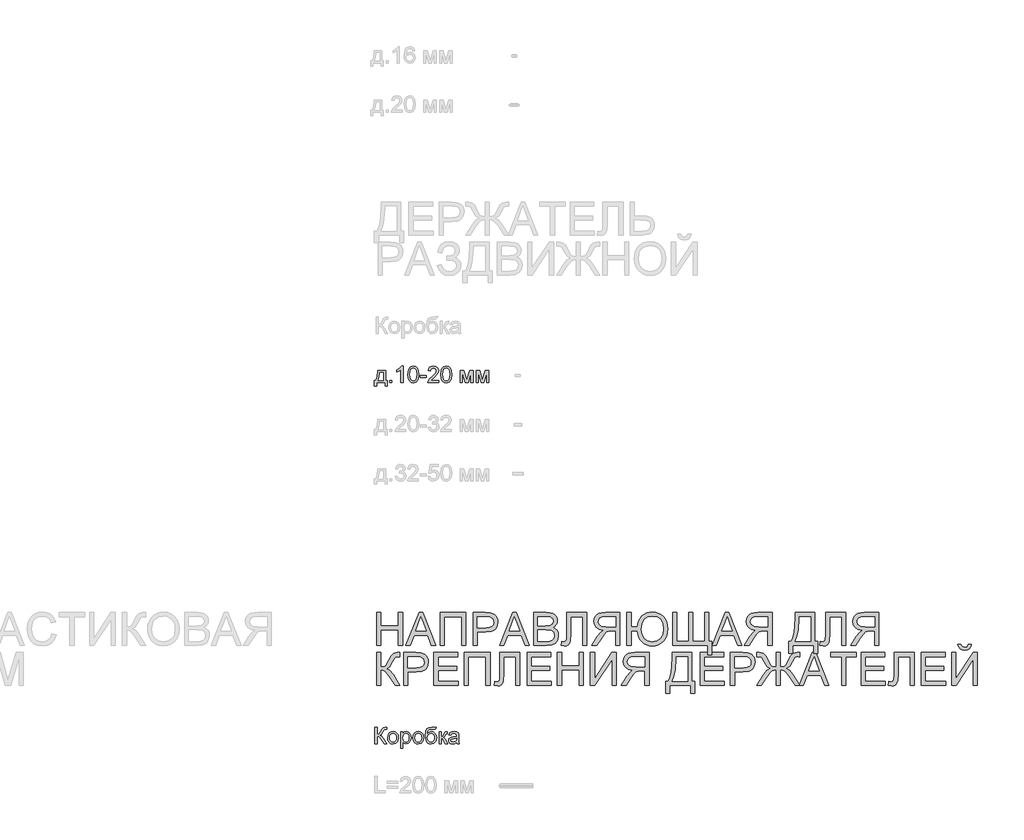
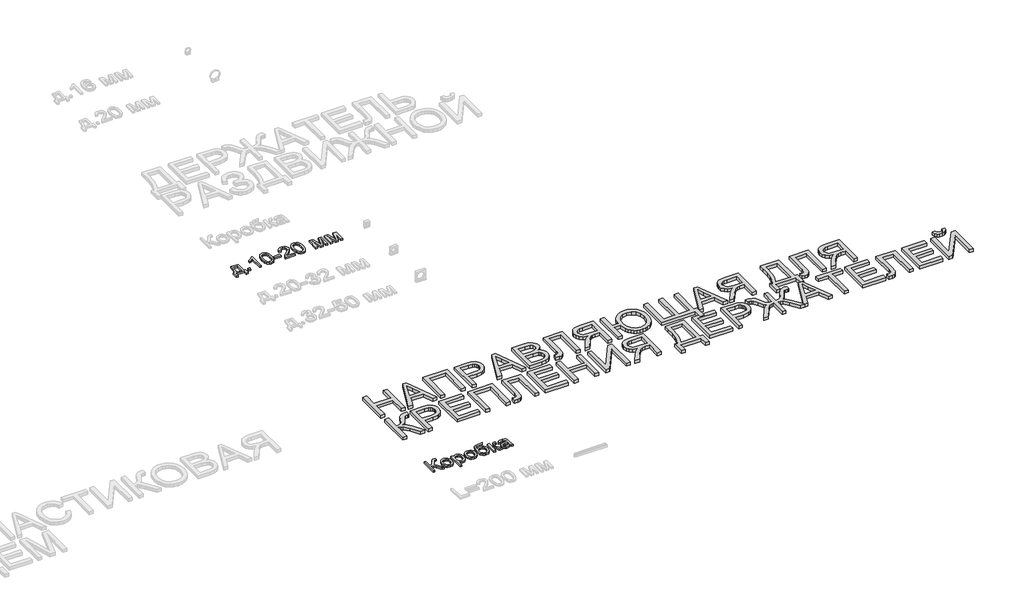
# One storey, part 49 of 98: 3 proxies.
"""IFC4 building model written with IfcOpenShell, lengths in millimetres."""

from ifc_helpers import new_model, si_unit, origin, origin_with_axes, place, context, project, spatial, polyline, outline, extrude, element, save

model = new_model("IFC4")

# Units and contexts
model_context = context("Model", 3, world=origin())
ifc_project = project(units=[si_unit("LENGTHUNIT", "METRE", prefix="MILLI")], contexts=[model_context])

# Site, building, storey
site = spatial("IfcSite", under=ifc_project)
building = spatial("IfcBuilding", under=site)
storey = spatial("IfcBuildingStorey", under=building, Name="Этаж 01", Elevation=0.0)

# Proxies
placement = place(None, origin())
element("IfcBuildingElementProxy", 1, Name="100", ObjectType="100", at=placement, inside=storey, context=model_context, shape_type="SweptSolid", body=[
    extrude(outline(polyline([(16052.0758798, -36515.1062206), (16064.6329186, -36515.1062206), (16064.6329186, -36559.0558563), (16078.673748, -36555.7326556), (16088.4716718, -36538.9204484), (16095.4001161, -36524.879619), (16103.2482653, -36517.9266492), (16114.4686662, -36515.1062206), (16122.7092229, -36515.2533734), (16122.7092229, -36527.8104122), (16119.9378452, -36527.7368358), (16117.1664675, -36527.6632594), (16107.3562809, -36530.6798917), (16099.9005392, -36543.6048125), (16091.0100576, -36559.3501619), (16082.3403053, -36564.5495608), (16092.0339958, -36570.2272062), (16101.5927963, -36582.0607437), (16122.7092229, -36615.5625308), (16108.1410959, -36615.5625308), (16090.2865564, -36587.2601426), (16077.7172549, -36572.4835491), (16064.6329186, -36568.4736354), (16064.6329186, -36615.5625308), (16052.0758798, -36615.5625308), (16052.0758798, -36515.1062206)])), origin_with_axes(), (0.0, 0.0, 1.0), 10.0),
    extrude(outline(polyline([(16128.9877423, -36578.6762294), (16131.7039376, -36560.8891349), (16139.8525238, -36548.3872784), (16149.9202278, -36542.2620432), (16161.9744945, -36540.2202982), (16175.1661297, -36542.7065673), (16185.7028832, -36550.1653748), (16192.6098676, -36562.0081093), (16194.9121958, -36577.6461598), (16190.8409684, -36599.9888596), (16178.9829054, -36612.6317375), (16161.9744945, -36617.1321606), (16148.6234437, -36614.6550885), (16138.098953, -36607.2238722), (16131.2655449, -36595.1328173), (16128.9877423, -36578.6762294)]), holes=[polyline([(16141.544781, -36578.6517039), (16142.9979149, -36590.0161919), (16147.3573165, -36598.1126615), (16153.9178788, -36602.9595067), (16161.9744945, -36604.5751218), (16169.994322, -36602.9503097), (16176.5426215, -36598.0758733), (16180.9020231, -36589.8721048), (16182.355157, -36578.2592965), (16180.8928261, -36567.2259023), (16176.5058333, -36559.2397973), (16169.9483367, -36554.392952), (16161.9744945, -36552.7773369), (16153.9178788, -36554.3868207), (16147.3573165, -36559.2152718), (16142.9979149, -36567.2933473), (16141.544781, -36578.6517039)])]), origin_with_axes(), (0.0, 0.0, 1.0), 10.0),
    extrude(outline(polyline([(16209.0388644, -36643.815868), (16209.0388644, -36541.789928), (16221.5959032, -36541.789928), (16221.5959032, -36554.1017121), (16230.2779183, -36543.6906516), (16242.0010912, -36540.2202982), (16257.9181188, -36545.0763405), (16268.3169166, -36558.7615507), (16271.8240582, -36578.1121437), (16267.8631954, -36598.456018), (16256.3607517, -36612.3129065), (16240.4805123, -36617.1321606), (16229.554417, -36613.9070618), (16221.5959032, -36605.7523442), (16221.5959032, -36643.815868), (16209.0388644, -36643.815868)]), holes=[polyline([(16221.5959032, -36579.2648406), (16222.9540009, -36590.5220296), (16227.028294, -36598.3947043), (16233.0400989, -36603.0300175), (16240.2107321, -36604.5751218), (16247.4978613, -36602.9748352), (16253.6629504, -36598.1739751), (16257.8660022, -36590.0131262), (16259.2670195, -36578.3328729), (16257.8997247, -36567.1369975), (16253.7978405, -36559.1539582), (16247.7952326, -36554.3714922), (16240.7257669, -36552.7773369), (16233.6287101, -36554.4726598), (16227.396176, -36559.5586284), (16223.0459714, -36567.8758271), (16221.5959032, -36579.2648406)])]), origin_with_axes(), (0.0, 0.0, 1.0), 10.0),
    extrude(outline(polyline([(16282.8114672, -36578.6762294), (16285.5276626, -36560.8891349), (16293.6762488, -36548.3872784), (16303.7439527, -36542.2620432), (16315.7982194, -36540.2202982), (16328.9898546, -36542.7065673), (16339.5266081, -36550.1653748), (16346.4335925, -36562.0081093), (16348.7359207, -36577.6461598), (16344.6646933, -36599.9888596), (16332.8066303, -36612.6317375), (16315.7982194, -36617.1321606), (16302.4471687, -36614.6550885), (16291.9226779, -36607.2238722), (16285.0892699, -36595.1328173), (16282.8114672, -36578.6762294)]), holes=[polyline([(16295.3685059, -36578.6517039), (16296.8216398, -36590.0161919), (16301.1810415, -36598.1126615), (16307.7416037, -36602.9595067), (16315.7982194, -36604.5751218), (16323.8180469, -36602.9503097), (16330.3663464, -36598.0758733), (16334.7257481, -36589.8721048), (16336.1788819, -36578.2592965), (16334.716551, -36567.2259023), (16330.3295582, -36559.2397973), (16323.7720616, -36554.392952), (16315.7982194, -36552.7773369), (16307.7416037, -36554.3868207), (16301.1810415, -36559.2152718), (16296.8216398, -36567.2933473), (16295.3685059, -36578.6517039)])]), origin_with_axes(), (0.0, 0.0, 1.0), 10.0),
    extrude(outline(polyline([(16414.6603742, -36513.5365908), (16425.6477832, -36513.5365908), (16422.4104216, -36523.3345146), (16416.0092749, -36526.8784445), (16400.6318075, -36527.6632594), (16379.9200512, -36530.5572644), (16371.9738001, -36539.8278907), (16369.2882615, -36556.2354277), (16380.1653058, -36544.2179492), (16394.1816098, -36540.2202982), (16407.247552, -36542.7617496), (16417.8486849, -36550.386104), (16424.875231, -36562.3453345), (16427.217413, -36577.8914145), (16422.5698371, -36599.4983503), (16411.54564, -36612.5336357), (16394.1816098, -36617.1321606), (16382.8477787, -36615.6514356), (16374.3527703, -36611.2092605), (16363.5002514, -36596.0525223), (16359.7233296, -36563.8873732), (16362.1053655, -36539.7941682), (16369.2514733, -36525.1003482), (16381.3394625, -36517.6047525), (16398.5471428, -36515.1062206), (16412.5266587, -36514.8241778), (16414.6603742, -36513.5365908)]), holes=[polyline([(16414.6603742, -36577.499007), (16413.2992109, -36567.6183097), (16409.2157207, -36559.7057812), (16402.6551585, -36554.509448), (16393.8627788, -36552.7773369), (16384.6963857, -36554.6075499), (16377.8967002, -36560.0981886), (16373.6844513, -36568.6483793), (16372.2803684, -36579.657248), (16373.8316041, -36590.3288916), (16378.4853114, -36598.1617124), (16385.4137556, -36602.9717695), (16393.7892024, -36604.5751218), (16402.2075687, -36602.7203835), (16408.8723642, -36597.1561683), (16413.2133717, -36588.5324012), (16414.6603742, -36577.499007)])]), origin_with_axes(), (0.0, 0.0, 1.0), 10.0),
    extrude(outline(polyline([(16442.9137115, -36541.789928), (16455.4707502, -36541.789928), (16455.4707502, -36573.1825249), (16463.8829852, -36570.926182), (16470.7746412, -36557.7805321), (16476.5013376, -36546.4375039), (16481.5535837, -36542.7464212), (16490.7383708, -36541.789928), (16493.1418665, -36541.789928), (16493.1418665, -36554.4205432), (16489.7573522, -36554.3469668), (16483.6259856, -36555.671342), (16479.3095035, -36563.9364241), (16474.2449947, -36572.8759566), (16467.1448722, -36577.2537523), (16475.0665978, -36582.1404515), (16482.8411707, -36592.435016), (16496.2811262, -36615.5625308), (16482.0073048, -36615.5625308), (16468.8371294, -36592.9255253), (16462.2152535, -36583.3483307), (16455.4707502, -36581.0306742), (16455.4707502, -36615.5625308), (16442.9137115, -36615.5625308), (16442.9137115, -36541.789928)])), origin_with_axes(), (0.0, 0.0, 1.0), 10.0),
    extrude(outline(polyline([(16551.2181708, -36606.1447517), (16539.0412768, -36614.6550885), (16525.5890585, -36617.1321606), (16515.0952246, -36615.6422385), (16507.3543743, -36611.1724723), (16502.5811054, -36604.3850495), (16500.9900158, -36595.9421577), (16503.3935115, -36586.0093438), (16509.7088191, -36578.7988567), (16518.5011987, -36574.6785784), (16529.3659803, -36572.7901175), (16551.1445944, -36568.4736354), (16551.2181708, -36565.6777322), (16547.7600801, -36556.4071059), (16533.8786661, -36552.7773369), (16521.1744746, -36555.1930954), (16515.1166844, -36563.7647458), (16502.5596456, -36562.195116), (16507.9920364, -36549.9323828), (16518.9303944, -36542.7464212), (16535.4973469, -36540.2202982), (16550.7153988, -36542.4521156), (16559.3115747, -36548.0561847), (16563.162073, -36556.5787842), (16563.7752096, -36567.5661931), (16563.7752096, -36583.1889152), (16564.4128717, -36605.0043175), (16566.9144693, -36615.5625308), (16554.3574305, -36615.5625308), (16551.2181708, -36606.1447517)]), holes=[polyline([(16551.2181708, -36581.0306742), (16530.9601356, -36584.8811724), (16520.1566677, -36586.9167861), (16515.2638372, -36590.227724), (16513.5470545, -36595.0592409), (16517.2871882, -36601.8527951), (16528.2623343, -36604.5751218), (16540.9665259, -36601.5707522), (16549.1580317, -36594.2989514), (16551.1445944, -36584.5868668), (16551.2181708, -36581.0306742)])]), origin_with_axes(), (0.0, 0.0, 1.0), 10.0),
])
element("IfcBuildingElementProxy", 2, Name="100", ObjectType="100", at=placement, inside=storey, context=model_context, shape_type="SweptSolid", body=[
    extrude(outline(polyline([(16069.228488, -34337.1797087), (16116.3173833, -34337.1797087), (16116.3173833, -34398.3952727), (16125.7351624, -34398.3952727), (16125.7351624, -34431.3574995), (16113.1781237, -34431.3574995), (16113.1781237, -34410.9523115), (16061.3803387, -34410.9523115), (16061.3803387, -34431.3574995), (16048.8233, -34431.3574995), (16048.8233, -34398.3952727), (16056.6714492, -34398.3952727), (16066.3712711, -34374.4461548), (16069.228488, -34337.1797087)]), holes=[polyline([(16080.2158969, -34349.7367475), (16077.2728409, -34378.345704), (16070.7981178, -34398.3952727), (16103.7603446, -34398.3952727), (16103.7603446, -34349.7367475), (16080.2158969, -34349.7367475)])]), origin_with_axes(), (0.0, 0.0, 1.0), 10.0),
    extrude(outline(polyline([(16143.0010907, -34410.9523115), (16143.0010907, -34398.3952727), (16155.5581295, -34398.3952727), (16155.5581295, -34410.9523115), (16143.0010907, -34410.9523115)])), origin_with_axes(), (0.0, 0.0, 1.0), 10.0),
    extrude(outline(polyline([(16223.0522129, -34410.9523115), (16210.4951741, -34410.9523115), (16210.4951741, -34332.6670229), (16198.6003229, -34341.1405715), (16185.3810966, -34347.4804046), (16185.3810966, -34335.6100789), (16203.7874591, -34323.8623805), (16214.958809, -34310.4960013), (16223.0522129, -34310.4960013), (16223.0522129, -34410.9523115)])), origin_with_axes(), (0.0, 0.0, 1.0), 10.0),
    extrude(outline(polyline([(16252.87518, -34361.5334968), (16256.5662626, -34332.6302347), (16267.5291461, -34315.9651803), (16285.8374067, -34310.4960013), (16300.5036356, -34313.7333629), (16310.6326532, -34323.0653028), (16316.5187651, -34337.9277354), (16318.7996335, -34361.5334968), (16315.145339, -34390.3141316), (16304.2192437, -34407.0159741), (16295.9878841, -34411.1454495), (16285.8374067, -34412.5219413), (16272.7898586, -34410.1307084), (16262.8815702, -34402.9570095), (16255.3767775, -34385.9669926), (16252.87518, -34361.5334968)]), holes=[polyline([(16265.4322187, -34361.5089713), (16266.9037467, -34381.2611688), (16271.3183306, -34392.6931018), (16277.8911556, -34398.1469524), (16285.8374067, -34399.9649026), (16293.7836578, -34398.140821), (16300.3564828, -34392.6685763), (16304.7710667, -34381.230512), (16306.2425947, -34361.5089713), (16304.8201177, -34342.201298), (16300.5526865, -34330.6804601), (16293.9921243, -34324.9598951), (16285.6902539, -34323.0530401), (16277.829842, -34324.7330346), (16271.5145344, -34329.7730179), (16266.9527976, -34342.0112256), (16265.4322187, -34361.5089713)])]), origin_with_axes(), (0.0, 0.0, 1.0), 10.0),
    extrude(outline(polyline([(16326.6477827, -34381.1293444), (16326.6477827, -34368.5723056), (16365.8885289, -34368.5723056), (16365.8885289, -34381.1293444), (16326.6477827, -34381.1293444)])), origin_with_axes(), (0.0, 0.0, 1.0), 10.0),
    extrude(outline(polyline([(16441.2307615, -34398.3952727), (16441.2307615, -34410.9523115), (16375.3063079, -34410.9523115), (16376.6552086, -34402.2948219), (16384.2826286, -34388.9652309), (16400.0034526, -34374.4093666), (16421.6839648, -34353.4891438), (16427.1040929, -34339.2643734), (16421.9905331, -34327.7496669), (16408.6364167, -34323.0530401), (16394.7182146, -34327.6393023), (16389.4329766, -34340.3189684), (16376.8759378, -34338.7493386), (16379.9201613, -34326.6031014), (16386.5021833, -34317.7310139), (16396.2786474, -34312.3047545), (16408.9061968, -34310.4960013), (16421.6257168, -34312.5070896), (16431.3837867, -34318.5403543), (16437.5917954, -34327.5534632), (16439.6611316, -34338.5040839), (16437.4293142, -34350.4111978), (16430.0103606, -34362.7229819), (16412.0209311, -34379.9275966), (16397.5754314, -34392.0063887), (16391.9100487, -34398.3952727), (16441.2307615, -34398.3952727)])), origin_with_axes(), (0.0, 0.0, 1.0), 10.0),
    extrude(outline(polyline([(16453.7878003, -34361.5334968), (16457.4788829, -34332.6302347), (16468.4417664, -34315.9651803), (16486.750027, -34310.4960013), (16501.4162559, -34313.7333629), (16511.5452735, -34323.0653028), (16517.4313854, -34337.9277354), (16519.7122538, -34361.5334968), (16516.0579593, -34390.3141316), (16505.131864, -34407.0159741), (16496.9005044, -34411.1454495), (16486.750027, -34412.5219413), (16473.7024789, -34410.1307084), (16463.7941905, -34402.9570095), (16456.2893978, -34385.9669926), (16453.7878003, -34361.5334968)]), holes=[polyline([(16466.344839, -34361.5089713), (16467.816367, -34381.2611688), (16472.2309509, -34392.6931018), (16478.8037759, -34398.1469524), (16486.750027, -34399.9649026), (16494.6962781, -34398.140821), (16501.2691031, -34392.6685763), (16505.683687, -34381.230512), (16507.155215, -34361.5089713), (16505.732738, -34342.201298), (16501.4653068, -34330.6804601), (16494.9047446, -34324.9598951), (16486.6028742, -34323.0530401), (16478.7424623, -34324.7330346), (16472.4271547, -34329.7730179), (16467.8654179, -34342.0112256), (16466.344839, -34361.5089713)])]), origin_with_axes(), (0.0, 0.0, 1.0), 10.0),
    extrude(outline(polyline([(16573.0796686, -34337.1797087), (16594.6866044, -34337.1797087), (16611.3393961, -34396.2370317), (16629.2920374, -34337.1797087), (16649.991531, -34337.1797087), (16649.991531, -34410.9523115), (16637.4344922, -34410.9523115), (16637.4344922, -34351.551632), (16619.383749, -34410.9523115), (16602.9026356, -34410.9523115), (16585.6367073, -34348.7066779), (16585.6367073, -34410.9523115), (16573.0796686, -34410.9523115), (16573.0796686, -34337.1797087)])), origin_with_axes(), (0.0, 0.0, 1.0), 10.0),
    extrude(outline(polyline([(16668.8270892, -34337.1797087), (16690.434025, -34337.1797087), (16707.0868167, -34396.2370317), (16725.039458, -34337.1797087), (16745.7389516, -34337.1797087), (16745.7389516, -34410.9523115), (16733.1819129, -34410.9523115), (16733.1819129, -34351.551632), (16715.1311696, -34410.9523115), (16698.6500562, -34410.9523115), (16681.3841279, -34348.7066779), (16681.3841279, -34410.9523115), (16668.8270892, -34410.9523115), (16668.8270892, -34337.1797087)])), origin_with_axes(), (0.0, 0.0, 1.0), 10.0),
])
element("IfcBuildingElementProxy", 3, Name="200", ObjectType="200", at=placement, inside=storey, context=model_context, shape_type="SweptSolid", body=[
    extrude(outline(polyline([(16063.0632887, -36015.5625308), (16063.0632887, -35814.6499105), (16088.1773663, -35814.6499105), (16088.1773663, -35896.2706625), (16194.9121958, -35896.2706625), (16194.9121958, -35814.6499105), (16220.0262733, -35814.6499105), (16220.0262733, -36015.5625308), (16194.9121958, -36015.5625308), (16194.9121958, -35921.38474), (16088.1773663, -35921.38474), (16088.1773663, -36015.5625308), (16063.0632887, -36015.5625308)])), origin_with_axes(), (0.0, 0.0, 1.0), 20.0),
    extrude(outline(polyline([(16240.5786141, -36015.5625308), (16320.7768891, -35814.6499105), (16342.1630957, -35814.6499105), (16422.3613707, -36015.5625308), (16395.8248161, -36015.5625308), (16372.8199287, -35952.7773369), (16290.0710052, -35952.7773369), (16267.1151687, -36015.5625308), (16240.5786141, -36015.5625308)]), holes=[polyline([(16299.2925806, -35927.6632594), (16363.6474042, -35927.6632594), (16345.5476101, -35878.2689702), (16331.4699924, -35839.763988), (16318.9620046, -35873.9524881), (16299.2925806, -35927.6632594)])]), origin_with_axes(), (0.0, 0.0, 1.0), 20.0),
    extrude(outline(polyline([(16449.1922309, -35814.6499105), (16606.1552155, -35814.6499105), (16606.1552155, -36015.5625308), (16581.0411379, -36015.5625308), (16581.0411379, -35839.763988), (16474.3063084, -35839.763988), (16474.3063084, -36015.5625308), (16449.1922309, -36015.5625308), (16449.1922309, -35814.6499105)])), origin_with_axes(), (0.0, 0.0, 1.0), 20.0),
    extrude(outline(polyline([(16650.1048512, -36015.5625308), (16650.1048512, -35814.6499105), (16724.564167, -35814.6499105), (16754.5833378, -35816.5628968), (16778.9861768, -35825.9561505), (16787.8582642, -35834.2825463), (16794.8051026, -35845.3803198), (16799.2932629, -35858.4707875), (16800.7893164, -35872.7752657), (16796.7487458, -35896.4546035), (16784.6270341, -35916.1853411), (16774.9195479, -35923.9537826), (16761.9593718, -35929.5026694), (16726.2809496, -35933.9417788), (16675.2189287, -35933.9417788), (16675.2189287, -36015.5625308), (16650.1048512, -36015.5625308)]), holes=[polyline([(16675.2189287, -35908.8277012), (16727.7524776, -35908.8277012), (16750.021601, -35906.5223074), (16764.7368808, -35899.6061259), (16772.9406493, -35888.5083524), (16775.6752388, -35873.6581825), (16774.0626894, -35862.376468), (16769.2250412, -35852.860587), (16761.7631681, -35845.6991509), (16752.2779439, -35841.4807707), (16727.1638664, -35839.763988), (16675.2189287, -35839.763988), (16675.2189287, -35908.8277012)])]), origin_with_axes(), (0.0, 0.0, 1.0), 20.0),
    extrude(outline(polyline([(16811.9238781, -36015.5625308), (16892.122153, -35814.6499105), (16913.5083597, -35814.6499105), (16993.7066346, -36015.5625308), (16967.1700801, -36015.5625308), (16944.1651926, -35952.7773369), (16861.4162692, -35952.7773369), (16838.4604327, -36015.5625308), (16811.9238781, -36015.5625308)]), holes=[polyline([(16870.6378445, -35927.6632594), (16934.9926682, -35927.6632594), (16916.8928741, -35878.2689702), (16902.8152564, -35839.763988), (16890.3072685, -35873.9524881), (16870.6378445, -35927.6632594)])]), origin_with_axes(), (0.0, 0.0, 1.0), 20.0),
    extrude(outline(polyline([(17020.5374948, -36015.5625308), (17020.5374948, -35814.6499105), (17097.2041026, -35814.6499105), (17118.2898723, -35816.1275698), (17134.7525916, -35820.5605479), (17147.370944, -35828.0592092), (17156.9236132, -35838.7339184), (17162.9384838, -35851.2909572), (17164.9434407, -35864.4366071), (17163.2573149, -35876.5337934), (17158.1989374, -35887.9074784), (17149.7315202, -35897.8586864), (17137.8182749, -35905.6884415), (17152.0491767, -35913.1196578), (17162.5644704, -35924.4258978), (17169.0575876, -35938.8591348), (17171.2219601, -35955.671342), (17165.3113227, -35982.6738804), (17150.6696193, -36001.901846), (17128.8174287, -36012.10444), (17096.6154914, -36015.5625308), (17020.5374948, -36015.5625308)]), holes=[polyline([(17045.6515724, -35896.2706625), (17091.5141944, -35896.2706625), (17118.2960037, -35894.1124214), (17134.4092351, -35884.8172697), (17139.8293631, -35868.4587836), (17134.7771171, -35852.0757721), (17120.3070919, -35842.3882129), (17088.0315782, -35839.763988), (17045.6515724, -35839.763988), (17045.6515724, -35896.2706625)]), polyline([(17045.6515724, -35990.4484532), (17097.1550517, -35990.4484532), (17115.7944061, -35989.4674346), (17131.564281, -35983.9982556), (17142.0121296, -35972.8391684), (17146.1078825, -35955.9165966), (17141.3008911, -35936.3943254), (17135.0039776, -35929.3371225), (17125.72722, -35924.7447289), (17094.7025051, -35921.38474), (17045.6515724, -35921.38474), (17045.6515724, -35990.4484532)])]), origin_with_axes(), (0.0, 0.0, 1.0), 20.0),
    extrude(outline(polyline([(17221.4501151, -35814.6499105), (17343.8812431, -35814.6499105), (17343.8812431, -36015.5625308), (17318.7671656, -36015.5625308), (17318.7671656, -35839.763988), (17246.5641927, -35839.763988), (17246.5641927, -35942.2804373), (17243.6456622, -35988.0204321), (17239.126845, -36000.9453528), (17231.4074545, -36010.632912), (17220.8369785, -36016.6845709), (17207.7649049, -36018.7017905), (17186.9182585, -36015.5625308), (17190.0575182, -35990.4484532), (17202.0749967, -35993.5877129), (17210.5669394, -35991.9015871), (17216.6185983, -35986.8432097), (17220.2422359, -35975.5308383), (17221.4501151, -35955.0827308), (17221.4501151, -35814.6499105)])), origin_with_axes(), (0.0, 0.0, 1.0), 20.0),
    extrude(outline(polyline([(17544.7938634, -36015.5625308), (17519.6797859, -36015.5625308), (17519.6797859, -35927.6632594), (17489.3663095, -35927.6632594), (17474.7981825, -35928.5461762), (17462.8542804, -35933.3286421), (17449.5860031, -35946.3516647), (17430.701394, -35973.9182889), (17404.5572469, -36015.5625308), (17375.3719419, -36015.5625308), (17408.8737289, -35961.1159955), (17429.229866, -35935.266154), (17443.5036874, -35924.5239997), (17418.7636232, -35917.8653356), (17401.4425126, -35905.8355943), (17391.2337873, -35889.4280574), (17387.8308788, -35869.636006), (17389.8848866, -35853.7251097), (17396.04691, -35839.2489532), (17405.6486301, -35827.5748312), (17418.0217279, -35820.0700385), (17434.950431, -35816.0049425), (17458.2189672, -35814.6499105), (17544.7938634, -35814.6499105), (17544.7938634, -36015.5625308)]), holes=[polyline([(17519.6797859, -35902.5491818), (17519.6797859, -35839.763988), (17457.1398467, -35839.763988), (17437.2680876, -35841.9344918), (17423.5644833, -35848.4460031), (17415.5998381, -35858.3175033), (17412.9449564, -35870.5679737), (17418.5122372, -35887.6131728), (17425.3671051, -35894.3699388), (17434.7971469, -35898.9929892), (17463.467417, -35902.5491818), (17519.6797859, -35902.5491818)])]), origin_with_axes(), (0.0, 0.0, 1.0), 20.0),
    extrude(outline(polyline([(17588.7434991, -35814.6499105), (17613.8575766, -35814.6499105), (17613.8575766, -35902.5491818), (17651.528693, -35902.5491818), (17654.4242308, -35882.8061814), (17660.1677885, -35865.1723711), (17668.7593659, -35849.6477509), (17680.1989631, -35836.2323209), (17693.8305239, -35825.4165902), (17708.997992, -35817.6910683), (17725.7013674, -35813.0557552), (17743.9406501, -35811.5106508), (17763.1410246, -35813.2366305), (17780.6184851, -35818.4145696), (17796.3730315, -35827.044468), (17810.4046639, -35839.1263259), (17821.9285674, -35854.1635024), (17830.1599271, -35871.659357), (17835.0987429, -35891.6138895), (17836.7450148, -35914.0271001), (17835.09721, -35937.2849064), (17830.1537957, -35957.8602398), (17821.9147719, -35975.7531004), (17810.3801385, -35990.963488), (17796.2795282, -36003.0989953), (17780.3425736, -36011.7672149), (17762.5692747, -36016.9681466), (17742.9596315, -36018.7017905), (17725.0744352, -36017.1904086), (17708.7466059, -36012.656263), (17693.9761438, -36005.0993537), (17680.7630488, -35994.5196806), (17669.610093, -35981.2728631), (17661.0200484, -35965.7145204), (17651.528693, -35927.6632594), (17613.8575766, -35927.6632594), (17613.8575766, -36015.5625308), (17588.7434991, -36015.5625308), (17588.7434991, -35814.6499105)]), holes=[polyline([(17676.6427705, -35916.1853411), (17681.284215, -35948.8532623), (17695.2085485, -35973.2806268), (17716.6744629, -35988.5109414), (17743.9406501, -35993.5877129), (17771.6850839, -35988.4925473), (17793.212312, -35973.2070504), (17807.026281, -35948.3566216), (17811.6309373, -35914.5666604), (17807.0998573, -35882.1685193), (17793.5066176, -35857.4713747), (17772.187856, -35841.8363899), (17744.4802104, -35836.6247283), (17716.3495005, -35841.9038349), (17694.8406665, -35857.7411548), (17681.1922445, -35882.9104147), (17676.6427705, -35916.1853411)])]), origin_with_axes(), (0.0, 0.0, 1.0), 20.0),
    extrude(outline(polyline([(17868.1376117, -35814.6499105), (17893.2516893, -35814.6499105), (17893.2516893, -35990.4484532), (17965.4546622, -35990.4484532), (17965.4546622, -35814.6499105), (17990.5687397, -35814.6499105), (17990.5687397, -35990.4484532), (18062.7717126, -35990.4484532), (18062.7717126, -35814.6499105), (18087.8857902, -35814.6499105), (18087.8857902, -35990.4484532), (18106.7213483, -35990.4484532), (18106.7213483, -36072.0692052), (18081.6072708, -36072.0692052), (18081.6072708, -36015.5625308), (17868.1376117, -36015.5625308), (17868.1376117, -35814.6499105)])), origin_with_axes(), (0.0, 0.0, 1.0), 20.0),
    extrude(outline(polyline([(18108.438131, -36015.5625308), (18188.6364059, -35814.6499105), (18210.0226126, -35814.6499105), (18290.2208875, -36015.5625308), (18263.6843329, -36015.5625308), (18240.6794455, -35952.7773369), (18157.930522, -35952.7773369), (18134.9746856, -36015.5625308), (18108.438131, -36015.5625308)]), holes=[polyline([(18167.1520974, -35927.6632594), (18231.5069211, -35927.6632594), (18213.4071269, -35878.2689702), (18199.3295092, -35839.763988), (18186.8215214, -35873.9524881), (18167.1520974, -35927.6632594)])]), origin_with_axes(), (0.0, 0.0, 1.0), 20.0),
    extrude(outline(polyline([(18474.0147323, -36015.5625308), (18448.9006548, -36015.5625308), (18448.9006548, -35927.6632594), (18418.5871784, -35927.6632594), (18404.0190514, -35928.5461762), (18392.0751492, -35933.3286421), (18378.806872, -35946.3516647), (18359.9222629, -35973.9182889), (18333.7781157, -36015.5625308), (18304.5928108, -36015.5625308), (18338.0945978, -35961.1159955), (18358.4507349, -35935.266154), (18372.7245563, -35924.5239997), (18347.9844921, -35917.8653356), (18330.6633815, -35905.8355943), (18320.4546562, -35889.4280574), (18317.0517477, -35869.636006), (18319.1057555, -35853.7251097), (18325.2677789, -35839.2489532), (18334.869499, -35827.5748312), (18347.2425968, -35820.0700385), (18364.1712999, -35816.0049425), (18387.4398361, -35814.6499105), (18474.0147323, -35814.6499105), (18474.0147323, -36015.5625308)]), holes=[polyline([(18448.9006548, -35902.5491818), (18448.9006548, -35839.763988), (18386.3607156, -35839.763988), (18366.4889565, -35841.9344918), (18352.7853522, -35848.4460031), (18344.820707, -35858.3175033), (18342.1658252, -35870.5679737), (18347.7331061, -35887.6131728), (18354.5879739, -35894.3699388), (18364.0180157, -35898.9929892), (18392.6882859, -35902.5491818), (18448.9006548, -35902.5491818)])]), origin_with_axes(), (0.0, 0.0, 1.0), 20.0),
    extrude(outline(polyline([(18615.2814185, -35814.6499105), (18734.5732868, -35814.6499105), (18734.5732868, -35990.4484532), (18753.4088449, -35990.4484532), (18753.4088449, -36062.6514262), (18728.2947674, -36062.6514262), (18728.2947674, -36015.5625308), (18599.58512, -36015.5625308), (18599.58512, -36062.6514262), (18574.4710425, -36062.6514262), (18574.4710425, -35990.4484532), (18590.1673409, -35990.4484532), (18601.1547498, -35967.6673607), (18609.0028991, -35935.6217732), (18613.7117886, -35894.3116908), (18615.2814185, -35843.7371136), (18615.2814185, -35814.6499105)]), holes=[polyline([(18709.4592092, -35839.763988), (18640.395496, -35839.763988), (18640.395496, -35849.8684801), (18635.294199, -35918.6869387), (18627.7403554, -35958.4549824), (18615.2814185, -35990.4484532), (18709.4592092, -35990.4484532), (18709.4592092, -35839.763988)])]), origin_with_axes(), (0.0, 0.0, 1.0), 20.0),
    extrude(outline(polyline([(18800.4977403, -35814.6499105), (18922.9288683, -35814.6499105), (18922.9288683, -36015.5625308), (18897.8147907, -36015.5625308), (18897.8147907, -35839.763988), (18825.6118178, -35839.763988), (18825.6118178, -35942.2804373), (18822.6932873, -35988.0204321), (18818.1744702, -36000.9453528), (18810.4550796, -36010.632912), (18799.8846036, -36016.6845709), (18786.8125301, -36018.7017905), (18765.9658837, -36015.5625308), (18769.1051434, -35990.4484532), (18781.1226219, -35993.5877129), (18789.6145646, -35991.9015871), (18795.6662234, -35986.8432097), (18799.2898611, -35975.5308383), (18800.4977403, -35955.0827308), (18800.4977403, -35814.6499105)])), origin_with_axes(), (0.0, 0.0, 1.0), 20.0),
    extrude(outline(polyline([(19123.8414886, -36015.5625308), (19098.727411, -36015.5625308), (19098.727411, -35927.6632594), (19068.4139346, -35927.6632594), (19053.8458076, -35928.5461762), (19041.9019055, -35933.3286421), (19028.6336282, -35946.3516647), (19009.7490191, -35973.9182889), (18983.604872, -36015.5625308), (18954.4195671, -36015.5625308), (18987.9213541, -35961.1159955), (19008.2774912, -35935.266154), (19022.5513126, -35924.5239997), (18997.8112484, -35917.8653356), (18980.4901378, -35905.8355943), (18970.2814124, -35889.4280574), (18966.878504, -35869.636006), (18968.9325118, -35853.7251097), (18975.0945352, -35839.2489532), (18984.6962553, -35827.5748312), (18997.069353, -35820.0700385), (19013.9980562, -35816.0049425), (19037.2665924, -35814.6499105), (19123.8414886, -35814.6499105), (19123.8414886, -36015.5625308)]), holes=[polyline([(19098.727411, -35902.5491818), (19098.727411, -35839.763988), (19036.1874719, -35839.763988), (19016.3157128, -35841.9344918), (19002.6121084, -35848.4460031), (18994.6474632, -35858.3175033), (18991.9925815, -35870.5679737), (18997.5598624, -35887.6131728), (19004.4147302, -35894.3699388), (19013.844772, -35898.9929892), (19042.5150422, -35902.5491818), (19098.727411, -35902.5491818)])]), origin_with_axes(), (0.0, 0.0, 1.0), 20.0),
    extrude(outline(polyline([(16063.0632887, -36058.5995462), (16088.1773663, -36058.5995462), (16088.1773663, -36146.4988175), (16105.1796458, -36144.8372172), (16116.2590252, -36139.8524162), (16125.2169518, -36128.1231119), (16135.8548728, -36106.2280018), (16149.7117613, -36078.1463428), (16165.4080598, -36064.2404034), (16187.8488615, -36058.5995462), (16204.3299749, -36058.8938518), (16204.3299749, -36084.0079293), (16198.7872195, -36083.8607765), (16193.2444641, -36083.7136237), (16181.7420204, -36085.2219399), (16173.624091, -36089.7468884), (16158.7126075, -36115.5967299), (16140.9316444, -36147.0874287), (16123.5921397, -36157.4862265), (16142.9795208, -36168.8415174), (16162.0971218, -36192.5085924), (16204.3299749, -36259.5121665), (16175.1937208, -36259.5121665), (16139.4846418, -36202.9073901), (16114.3460388, -36173.3542032), (16102.7393619, -36167.3393326), (16088.1773663, -36165.3343757), (16088.1773663, -36259.5121665), (16063.0632887, -36259.5121665), (16063.0632887, -36058.5995462)])), origin_with_axes(), (0.0, 0.0, 1.0), 20.0),
    extrude(outline(polyline([(16226.3047927, -36259.5121665), (16226.3047927, -36058.5995462), (16300.7641085, -36058.5995462), (16330.7832793, -36060.5125325), (16355.1861184, -36069.9057861), (16364.0582058, -36078.232182), (16371.0050441, -36089.3299555), (16375.4932045, -36102.4204232), (16376.9892579, -36116.7249014), (16372.9486874, -36140.4042392), (16360.8269756, -36160.1349768), (16351.1194895, -36167.9034183), (16338.1593133, -36173.4523051), (16302.4808912, -36177.8914145), (16251.4188702, -36177.8914145), (16251.4188702, -36259.5121665), (16226.3047927, -36259.5121665)]), holes=[polyline([(16251.4188702, -36152.7773369), (16303.9524192, -36152.7773369), (16326.2215426, -36150.4719431), (16340.9368224, -36143.5557616), (16349.1405909, -36132.4579881), (16351.8751804, -36117.6078182), (16350.262631, -36106.3261037), (16345.4249827, -36096.8102227), (16337.9631096, -36089.6487866), (16328.4778855, -36085.4304063), (16303.363808, -36083.7136237), (16251.4188702, -36083.7136237), (16251.4188702, -36152.7773369)])]), origin_with_axes(), (0.0, 0.0, 1.0), 20.0),
    extrude(outline(polyline([(16411.5211145, -36259.5121665), (16411.5211145, -36058.5995462), (16555.9270604, -36058.5995462), (16555.9270604, -36083.7136237), (16436.6351921, -36083.7136237), (16436.6351921, -36143.3595578), (16549.648541, -36143.3595578), (16549.648541, -36168.4736354), (16436.6351921, -36168.4736354), (16436.6351921, -36234.3980889), (16559.0663201, -36234.3980889), (16559.0663201, -36259.5121665), (16411.5211145, -36259.5121665)])), origin_with_axes(), (0.0, 0.0, 1.0), 20.0),
    extrude(outline(polyline([(16596.7374364, -36058.5995462), (16753.700421, -36058.5995462), (16753.700421, -36259.5121665), (16728.5863435, -36259.5121665), (16728.5863435, -36083.7136237), (16621.8515139, -36083.7136237), (16621.8515139, -36259.5121665), (16596.7374364, -36259.5121665), (16596.7374364, -36058.5995462)])), origin_with_axes(), (0.0, 0.0, 1.0), 20.0),
    extrude(outline(polyline([(16813.3463551, -36058.5995462), (16935.7774831, -36058.5995462), (16935.7774831, -36259.5121665), (16910.6634056, -36259.5121665), (16910.6634056, -36083.7136237), (16838.4604327, -36083.7136237), (16838.4604327, -36186.230073), (16835.5419022, -36231.9700678), (16831.023085, -36244.8949885), (16823.3036945, -36254.5825477), (16812.7332185, -36260.6342065), (16799.6611449, -36262.6514262), (16778.8144985, -36259.5121665), (16781.9537582, -36234.3980889), (16793.9712367, -36237.5373486), (16802.4631795, -36235.8512228), (16808.5148383, -36230.7928454), (16812.1384759, -36219.480474), (16813.3463551, -36199.0323665), (16813.3463551, -36058.5995462)])), origin_with_axes(), (0.0, 0.0, 1.0), 20.0),
    extrude(outline(polyline([(16979.7271188, -36259.5121665), (16979.7271188, -36058.5995462), (17124.1330647, -36058.5995462), (17124.1330647, -36083.7136237), (17004.8411964, -36083.7136237), (17004.8411964, -36143.3595578), (17117.8545453, -36143.3595578), (17117.8545453, -36168.4736354), (17004.8411964, -36168.4736354), (17004.8411964, -36234.3980889), (17127.2723244, -36234.3980889), (17127.2723244, -36259.5121665), (16979.7271188, -36259.5121665)])), origin_with_axes(), (0.0, 0.0, 1.0), 20.0),
    extrude(outline(polyline([(17164.9434407, -36259.5121665), (17164.9434407, -36058.5995462), (17190.0575182, -36058.5995462), (17190.0575182, -36140.2202982), (17296.7923477, -36140.2202982), (17296.7923477, -36058.5995462), (17321.9064253, -36058.5995462), (17321.9064253, -36259.5121665), (17296.7923477, -36259.5121665), (17296.7923477, -36165.3343757), (17190.0575182, -36165.3343757), (17190.0575182, -36259.5121665), (17164.9434407, -36259.5121665)])), origin_with_axes(), (0.0, 0.0, 1.0), 20.0),
    extrude(outline(polyline([(17365.856061, -36058.5995462), (17390.9701385, -36058.5995462), (17390.9701385, -36217.7207718), (17496.1353382, -36058.5995462), (17522.8190456, -36058.5995462), (17522.8190456, -36259.5121665), (17497.704968, -36259.5121665), (17497.704968, -36100.8323992), (17392.785023, -36259.5121665), (17365.856061, -36259.5121665), (17365.856061, -36058.5995462)])), origin_with_axes(), (0.0, 0.0, 1.0), 20.0),
    extrude(outline(polyline([(17723.7316659, -36259.5121665), (17698.6175883, -36259.5121665), (17698.6175883, -36171.6128951), (17668.3041119, -36171.6128951), (17653.7359849, -36172.4958119), (17641.7920828, -36177.2782778), (17628.5238055, -36190.3013004), (17609.6391964, -36217.8679246), (17583.4950493, -36259.5121665), (17554.3097444, -36259.5121665), (17587.8115314, -36205.0656312), (17608.1676685, -36179.2157896), (17622.4414899, -36168.4736354), (17597.7014257, -36161.8149713), (17580.3803151, -36149.78523), (17570.1715897, -36133.377693), (17566.7686813, -36113.5856417), (17568.8226891, -36097.6747454), (17574.9847125, -36083.1985889), (17584.5864326, -36071.5244669), (17596.9595303, -36064.0196742), (17613.8882335, -36059.9545782), (17637.1567697, -36058.5995462), (17723.7316659, -36058.5995462), (17723.7316659, -36259.5121665)]), holes=[polyline([(17698.6175883, -36146.4988175), (17698.6175883, -36083.7136237), (17636.0776492, -36083.7136237), (17616.2058901, -36085.8841275), (17602.5022857, -36092.3956388), (17594.5376405, -36102.267139), (17591.8827588, -36114.5176094), (17597.4500397, -36131.5628085), (17604.3049075, -36138.3195745), (17613.7349493, -36142.9426249), (17642.4052195, -36146.4988175), (17698.6175883, -36146.4988175)])]), origin_with_axes(), (0.0, 0.0, 1.0), 20.0),
    extrude(outline(polyline([(17864.998352, -36058.5995462), (17984.2902203, -36058.5995462), (17984.2902203, -36234.3980889), (18003.1257785, -36234.3980889), (18003.1257785, -36306.6010618), (17978.0117009, -36306.6010618), (17978.0117009, -36259.5121665), (17849.3020536, -36259.5121665), (17849.3020536, -36306.6010618), (17824.187976, -36306.6010618), (17824.187976, -36234.3980889), (17839.8842745, -36234.3980889), (17850.8716834, -36211.6169964), (17858.7198326, -36179.5714089), (17863.4287222, -36138.2613265), (17864.998352, -36087.6867492), (17864.998352, -36058.5995462)]), holes=[polyline([(17959.1761428, -36083.7136237), (17890.1124296, -36083.7136237), (17890.1124296, -36093.8181158), (17885.0111326, -36162.6365744), (17877.4572889, -36202.4046181), (17864.998352, -36234.3980889), (17959.1761428, -36234.3980889), (17959.1761428, -36083.7136237)])]), origin_with_axes(), (0.0, 0.0, 1.0), 20.0),
    extrude(outline(polyline([(18034.5183754, -36259.5121665), (18034.5183754, -36058.5995462), (18178.9243212, -36058.5995462), (18178.9243212, -36083.7136237), (18059.6324529, -36083.7136237), (18059.6324529, -36143.3595578), (18172.6458019, -36143.3595578), (18172.6458019, -36168.4736354), (18059.6324529, -36168.4736354), (18059.6324529, -36234.3980889), (18182.0635809, -36234.3980889), (18182.0635809, -36259.5121665), (18034.5183754, -36259.5121665)])), origin_with_axes(), (0.0, 0.0, 1.0), 20.0),
    extrude(outline(polyline([(18219.7346972, -36259.5121665), (18219.7346972, -36058.5995462), (18294.1940131, -36058.5995462), (18324.2131839, -36060.5125325), (18348.6160229, -36069.9057861), (18357.4881103, -36078.232182), (18364.4349487, -36089.3299555), (18368.923109, -36102.4204232), (18370.4191625, -36116.7249014), (18366.3785919, -36140.4042392), (18354.2568801, -36160.1349768), (18344.549394, -36167.9034183), (18331.5892179, -36173.4523051), (18295.9107957, -36177.8914145), (18244.8487748, -36177.8914145), (18244.8487748, -36259.5121665), (18219.7346972, -36259.5121665)]), holes=[polyline([(18244.8487748, -36152.7773369), (18297.3823237, -36152.7773369), (18319.6514471, -36150.4719431), (18334.3667269, -36143.5557616), (18342.5704954, -36132.4579881), (18345.3050849, -36117.6078182), (18343.6925355, -36106.3261037), (18338.8548873, -36096.8102227), (18331.3930141, -36089.6487866), (18321.90779, -36085.4304063), (18296.7937125, -36083.7136237), (18244.8487748, -36083.7136237), (18244.8487748, -36152.7773369)])]), origin_with_axes(), (0.0, 0.0, 1.0), 20.0),
    extrude(outline(polyline([(18524.2428874, -36058.5995462), (18524.2428874, -36146.4988175), (18542.6124617, -36144.8065604), (18554.1639563, -36139.7297888), (18563.2015907, -36127.9820904), (18574.0295841, -36106.2770527), (18588.2543545, -36078.1953938), (18604.1713822, -36064.2404034), (18626.8083876, -36058.5995462), (18643.5347557, -36058.8938518), (18643.5347557, -36083.7136237), (18638.0410512, -36083.5664709), (18632.400194, -36083.4193181), (18620.6647583, -36084.9521597), (18612.4364644, -36089.5506847), (18597.2306752, -36115.2043225), (18581.1664948, -36143.9236436), (18561.4725453, -36156.6033097), (18581.3259103, -36168.3264826), (18600.5661386, -36192.5085924), (18643.5347557, -36259.5121665), (18614.3494507, -36259.5121665), (18577.9046077, -36202.6621355), (18552.8150557, -36173.7711361), (18540.5829793, -36167.4435658), (18524.2428874, -36165.3343757), (18524.2428874, -36259.5121665), (18499.1288098, -36259.5121665), (18499.1288098, -36165.3343757), (18485.3761546, -36166.9714506), (18473.3525447, -36171.8826752), (18461.2553584, -36182.2017652), (18447.281974, -36200.062436), (18445.4670895, -36202.6621355), (18409.0222465, -36259.5121665), (18379.8369415, -36259.5121665), (18422.7565076, -36192.5085924), (18442.2174652, -36168.2529062), (18461.9482029, -36156.6033097), (18443.3088484, -36145.2480188), (18426.141022, -36115.2043225), (18410.4937745, -36089.0111244), (18402.4126333, -36085.0379989), (18391.1186561, -36083.7136237), (18379.8369415, -36084.0079293), (18379.8369415, -36058.8938518), (18395.6803928, -36058.5995462), (18419.2248405, -36064.1177761), (18434.8475626, -36077.9501391), (18449.3421132, -36106.3261037), (18460.1762379, -36128.2702647), (18469.1341645, -36139.8524162), (18480.6427396, -36144.7145899), (18499.1288098, -36146.4988175), (18499.1288098, -36058.5995462), (18524.2428874, -36058.5995462)])), origin_with_axes(), (0.0, 0.0, 1.0), 20.0),
    extrude(outline(polyline([(18638.9730189, -36259.5121665), (18719.1712939, -36058.5995462), (18740.5575005, -36058.5995462), (18820.7557755, -36259.5121665), (18794.2192209, -36259.5121665), (18771.2143335, -36196.7269726), (18688.46541, -36196.7269726), (18665.5095735, -36259.5121665), (18638.9730189, -36259.5121665)]), holes=[polyline([(18697.6869854, -36171.6128951), (18762.0418091, -36171.6128951), (18743.9420149, -36122.2186059), (18729.8643972, -36083.7136237), (18717.3564094, -36117.9021238), (18697.6869854, -36171.6128951)])]), origin_with_axes(), (0.0, 0.0, 1.0), 20.0),
    extrude(outline(polyline([(18897.8147907, -36259.5121665), (18897.8147907, -36083.7136237), (18831.8903372, -36083.7136237), (18831.8903372, -36058.5995462), (18988.8533218, -36058.5995462), (18988.8533218, -36083.7136237), (18922.9288683, -36083.7136237), (18922.9288683, -36259.5121665), (18897.8147907, -36259.5121665)])), origin_with_axes(), (0.0, 0.0, 1.0), 20.0),
    extrude(outline(polyline([(19017.1066591, -36259.5121665), (19017.1066591, -36058.5995462), (19161.5126049, -36058.5995462), (19161.5126049, -36083.7136237), (19042.2207366, -36083.7136237), (19042.2207366, -36143.3595578), (19155.2340855, -36143.3595578), (19155.2340855, -36168.4736354), (19042.2207366, -36168.4736354), (19042.2207366, -36234.3980889), (19164.6518646, -36234.3980889), (19164.6518646, -36259.5121665), (19017.1066591, -36259.5121665)])), origin_with_axes(), (0.0, 0.0, 1.0), 20.0),
    extrude(outline(polyline([(19218.0192794, -36058.5995462), (19340.4504073, -36058.5995462), (19340.4504073, -36259.5121665), (19315.3363298, -36259.5121665), (19315.3363298, -36083.7136237), (19243.1333569, -36083.7136237), (19243.1333569, -36186.230073), (19240.2148264, -36231.9700678), (19235.6960092, -36244.8949885), (19227.9766187, -36254.5825477), (19217.4061427, -36260.6342065), (19204.3340691, -36262.6514262), (19183.4874227, -36259.5121665), (19186.6266824, -36234.3980889), (19198.6441609, -36237.5373486), (19207.1361037, -36235.8512228), (19213.1877625, -36230.7928454), (19216.8114001, -36219.480474), (19218.0192794, -36199.0323665), (19218.0192794, -36058.5995462)])), origin_with_axes(), (0.0, 0.0, 1.0), 20.0),
    extrude(outline(polyline([(19384.400043, -36259.5121665), (19384.400043, -36058.5995462), (19528.8059889, -36058.5995462), (19528.8059889, -36083.7136237), (19409.5141206, -36083.7136237), (19409.5141206, -36143.3595578), (19522.5274695, -36143.3595578), (19522.5274695, -36168.4736354), (19409.5141206, -36168.4736354), (19409.5141206, -36234.3980889), (19531.9452486, -36234.3980889), (19531.9452486, -36259.5121665), (19384.400043, -36259.5121665)])), origin_with_axes(), (0.0, 0.0, 1.0), 20.0),
    extrude(outline(polyline([(19670.072675, -36008.3713911), (19688.9082332, -36008.3713911), (19684.8553999, -36024.4539656), (19676.7190764, -36036.3058973), (19664.8671448, -36043.6083549), (19649.667487, -36046.0425074), (19633.1741109, -36043.626749), (19620.3840802, -36036.3794737), (19611.6407515, -36024.5459361), (19607.2874812, -36008.3713911), (19626.1230393, -36008.3713911), (19633.1863736, -36022.5225852), (19647.4111441, -36027.2069492), (19663.0093407, -36022.669738), (19670.072675, -36008.3713911)])), origin_with_axes(), (0.0, 0.0, 1.0), 20.0),
    extrude(outline(polyline([(19569.6163649, -36058.5995462), (19594.7304424, -36058.5995462), (19594.7304424, -36217.7207718), (19699.8956421, -36058.5995462), (19726.5793495, -36058.5995462), (19726.5793495, -36259.5121665), (19701.4652719, -36259.5121665), (19701.4652719, -36100.8323992), (19596.5453269, -36259.5121665), (19569.6163649, -36259.5121665), (19569.6163649, -36058.5995462)])), origin_with_axes(), (0.0, 0.0, 1.0), 20.0),
])

save(model, "model.ifc")
